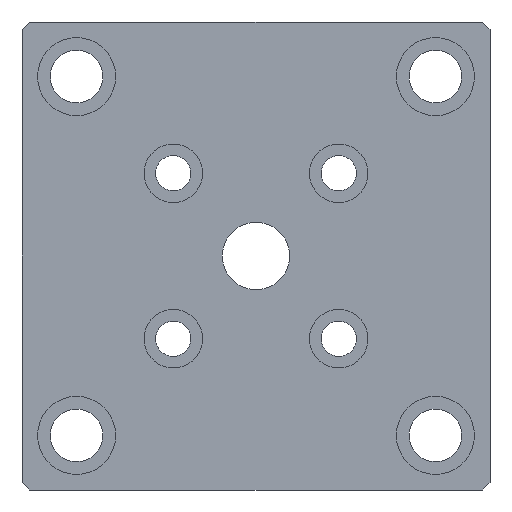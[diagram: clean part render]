
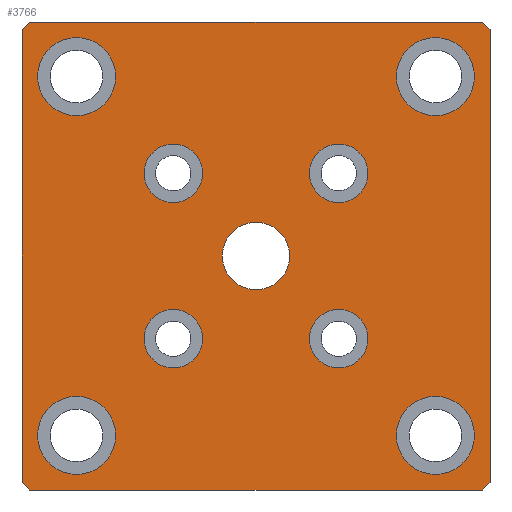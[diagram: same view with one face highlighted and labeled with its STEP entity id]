
A CAD part, front view. The second image highlights one B-rep face of the part: STEP entity #3766.
In plain terms, the highlighted planar face has unit normal (0, -1, 0).
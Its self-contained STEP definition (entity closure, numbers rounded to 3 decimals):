
#45=CIRCLE('',#3880,10.);
#46=CIRCLE('',#3881,10.);
#50=CIRCLE('',#3888,10.);
#51=CIRCLE('',#3889,10.);
#55=CIRCLE('',#3896,10.);
#56=CIRCLE('',#3897,10.);
#60=CIRCLE('',#3904,10.);
#61=CIRCLE('',#3905,10.);
#65=CIRCLE('',#3912,7.5);
#66=CIRCLE('',#3913,7.5);
#70=CIRCLE('',#3920,7.5);
#71=CIRCLE('',#3921,7.5);
#75=CIRCLE('',#3928,7.5);
#76=CIRCLE('',#3929,7.5);
#80=CIRCLE('',#3936,7.5);
#81=CIRCLE('',#3937,7.5);
#82=CIRCLE('',#3942,8.647);
#116=FACE_BOUND('',#850,.T.);
#117=FACE_BOUND('',#851,.T.);
#118=FACE_BOUND('',#852,.T.);
#119=FACE_BOUND('',#853,.T.);
#120=FACE_BOUND('',#854,.T.);
#121=FACE_BOUND('',#855,.T.);
#122=FACE_BOUND('',#856,.T.);
#123=FACE_BOUND('',#857,.T.);
#124=FACE_BOUND('',#858,.T.);
#613=FACE_OUTER_BOUND('',#849,.T.);
#849=EDGE_LOOP('',(#3423,#3424,#3425,#3426,#3427,#3428,#3429,#3430));
#850=EDGE_LOOP('',(#3431,#3432));
#851=EDGE_LOOP('',(#3433,#3434));
#852=EDGE_LOOP('',(#3435,#3436));
#853=EDGE_LOOP('',(#3437,#3438));
#854=EDGE_LOOP('',(#3439,#3440));
#855=EDGE_LOOP('',(#3441,#3442));
#856=EDGE_LOOP('',(#3443,#3444));
#857=EDGE_LOOP('',(#3445,#3446));
#858=EDGE_LOOP('',(#3447));
#1152=LINE('',#6929,#1453);
#1154=LINE('',#6933,#1455);
#1156=LINE('',#6937,#1457);
#1157=LINE('',#6939,#1458);
#1158=LINE('',#6941,#1459);
#1159=LINE('',#6943,#1460);
#1160=LINE('',#6945,#1461);
#1161=LINE('',#6946,#1462);
#1453=VECTOR('',#4528,10.);
#1455=VECTOR('',#4532,10.);
#1457=VECTOR('',#4536,10.);
#1458=VECTOR('',#4537,10.);
#1459=VECTOR('',#4538,10.);
#1460=VECTOR('',#4539,10.);
#1461=VECTOR('',#4540,10.);
#1462=VECTOR('',#4541,10.);
#1794=VERTEX_POINT('',#6813);
#1795=VERTEX_POINT('',#6814);
#1799=VERTEX_POINT('',#6828);
#1800=VERTEX_POINT('',#6829);
#1804=VERTEX_POINT('',#6843);
#1805=VERTEX_POINT('',#6844);
#1809=VERTEX_POINT('',#6858);
#1810=VERTEX_POINT('',#6859);
#1814=VERTEX_POINT('',#6873);
#1815=VERTEX_POINT('',#6874);
#1819=VERTEX_POINT('',#6888);
#1820=VERTEX_POINT('',#6889);
#1824=VERTEX_POINT('',#6903);
#1825=VERTEX_POINT('',#6904);
#1829=VERTEX_POINT('',#6918);
#1830=VERTEX_POINT('',#6919);
#1831=VERTEX_POINT('',#6926);
#1832=VERTEX_POINT('',#6928);
#1833=VERTEX_POINT('',#6932);
#1834=VERTEX_POINT('',#6936);
#1835=VERTEX_POINT('',#6938);
#1836=VERTEX_POINT('',#6940);
#1837=VERTEX_POINT('',#6942);
#1838=VERTEX_POINT('',#6944);
#1839=VERTEX_POINT('',#6947);
#2317=EDGE_CURVE('',#1794,#1795,#45,.T.);
#2318=EDGE_CURVE('',#1795,#1794,#46,.T.);
#2324=EDGE_CURVE('',#1799,#1800,#50,.T.);
#2325=EDGE_CURVE('',#1800,#1799,#51,.T.);
#2331=EDGE_CURVE('',#1804,#1805,#55,.T.);
#2332=EDGE_CURVE('',#1805,#1804,#56,.T.);
#2338=EDGE_CURVE('',#1809,#1810,#60,.T.);
#2339=EDGE_CURVE('',#1810,#1809,#61,.T.);
#2345=EDGE_CURVE('',#1814,#1815,#65,.T.);
#2346=EDGE_CURVE('',#1815,#1814,#66,.T.);
#2352=EDGE_CURVE('',#1819,#1820,#70,.T.);
#2353=EDGE_CURVE('',#1820,#1819,#71,.T.);
#2359=EDGE_CURVE('',#1824,#1825,#75,.T.);
#2360=EDGE_CURVE('',#1825,#1824,#76,.T.);
#2366=EDGE_CURVE('',#1829,#1830,#80,.T.);
#2367=EDGE_CURVE('',#1830,#1829,#81,.T.);
#2371=EDGE_CURVE('',#1831,#1832,#1152,.T.);
#2373=EDGE_CURVE('',#1833,#1832,#1154,.T.);
#2375=EDGE_CURVE('',#1831,#1834,#1156,.T.);
#2376=EDGE_CURVE('',#1835,#1834,#1157,.T.);
#2377=EDGE_CURVE('',#1835,#1836,#1158,.T.);
#2378=EDGE_CURVE('',#1837,#1836,#1159,.T.);
#2379=EDGE_CURVE('',#1837,#1838,#1160,.T.);
#2380=EDGE_CURVE('',#1833,#1838,#1161,.T.);
#2381=EDGE_CURVE('',#1839,#1839,#82,.T.);
#3423=ORIENTED_EDGE('',*,*,#2371,.F.);
#3424=ORIENTED_EDGE('',*,*,#2375,.T.);
#3425=ORIENTED_EDGE('',*,*,#2376,.F.);
#3426=ORIENTED_EDGE('',*,*,#2377,.T.);
#3427=ORIENTED_EDGE('',*,*,#2378,.F.);
#3428=ORIENTED_EDGE('',*,*,#2379,.T.);
#3429=ORIENTED_EDGE('',*,*,#2380,.F.);
#3430=ORIENTED_EDGE('',*,*,#2373,.T.);
#3431=ORIENTED_EDGE('',*,*,#2317,.T.);
#3432=ORIENTED_EDGE('',*,*,#2318,.T.);
#3433=ORIENTED_EDGE('',*,*,#2324,.T.);
#3434=ORIENTED_EDGE('',*,*,#2325,.T.);
#3435=ORIENTED_EDGE('',*,*,#2331,.T.);
#3436=ORIENTED_EDGE('',*,*,#2332,.T.);
#3437=ORIENTED_EDGE('',*,*,#2338,.T.);
#3438=ORIENTED_EDGE('',*,*,#2339,.T.);
#3439=ORIENTED_EDGE('',*,*,#2345,.T.);
#3440=ORIENTED_EDGE('',*,*,#2346,.T.);
#3441=ORIENTED_EDGE('',*,*,#2352,.T.);
#3442=ORIENTED_EDGE('',*,*,#2353,.T.);
#3443=ORIENTED_EDGE('',*,*,#2359,.T.);
#3444=ORIENTED_EDGE('',*,*,#2360,.T.);
#3445=ORIENTED_EDGE('',*,*,#2366,.T.);
#3446=ORIENTED_EDGE('',*,*,#2367,.T.);
#3447=ORIENTED_EDGE('',*,*,#2381,.T.);
#3564=PLANE('',#3941);
#3766=ADVANCED_FACE('',(#613,#116,#117,#118,#119,#120,#121,#122,#123,#124),
#3564,.F.);
#3880=AXIS2_PLACEMENT_3D('',#6815,#4391,#4392);
#3881=AXIS2_PLACEMENT_3D('',#6816,#4393,#4394);
#3888=AXIS2_PLACEMENT_3D('',#6830,#4409,#4410);
#3889=AXIS2_PLACEMENT_3D('',#6831,#4411,#4412);
#3896=AXIS2_PLACEMENT_3D('',#6845,#4427,#4428);
#3897=AXIS2_PLACEMENT_3D('',#6846,#4429,#4430);
#3904=AXIS2_PLACEMENT_3D('',#6860,#4445,#4446);
#3905=AXIS2_PLACEMENT_3D('',#6861,#4447,#4448);
#3912=AXIS2_PLACEMENT_3D('',#6875,#4463,#4464);
#3913=AXIS2_PLACEMENT_3D('',#6876,#4465,#4466);
#3920=AXIS2_PLACEMENT_3D('',#6890,#4481,#4482);
#3921=AXIS2_PLACEMENT_3D('',#6891,#4483,#4484);
#3928=AXIS2_PLACEMENT_3D('',#6905,#4499,#4500);
#3929=AXIS2_PLACEMENT_3D('',#6906,#4501,#4502);
#3936=AXIS2_PLACEMENT_3D('',#6920,#4517,#4518);
#3937=AXIS2_PLACEMENT_3D('',#6921,#4519,#4520);
#3941=AXIS2_PLACEMENT_3D('',#6935,#4534,#4535);
#3942=AXIS2_PLACEMENT_3D('',#6948,#4542,#4543);
#4391=DIRECTION('center_axis',(0.,1.,0.));
#4392=DIRECTION('ref_axis',(0.,0.,-1.));
#4393=DIRECTION('center_axis',(0.,1.,0.));
#4394=DIRECTION('ref_axis',(0.,0.,-1.));
#4409=DIRECTION('center_axis',(0.,1.,0.));
#4410=DIRECTION('ref_axis',(1.,0.,0.));
#4411=DIRECTION('center_axis',(0.,1.,0.));
#4412=DIRECTION('ref_axis',(1.,0.,0.));
#4427=DIRECTION('center_axis',(0.,1.,0.));
#4428=DIRECTION('ref_axis',(0.,0.,1.));
#4429=DIRECTION('center_axis',(0.,1.,0.));
#4430=DIRECTION('ref_axis',(0.,0.,1.));
#4445=DIRECTION('center_axis',(0.,1.,0.));
#4446=DIRECTION('ref_axis',(-1.,0.,0.));
#4447=DIRECTION('center_axis',(0.,1.,0.));
#4448=DIRECTION('ref_axis',(-1.,0.,0.));
#4463=DIRECTION('center_axis',(0.,1.,0.));
#4464=DIRECTION('ref_axis',(0.,0.,-1.));
#4465=DIRECTION('center_axis',(0.,1.,0.));
#4466=DIRECTION('ref_axis',(0.,0.,-1.));
#4481=DIRECTION('center_axis',(0.,1.,0.));
#4482=DIRECTION('ref_axis',(1.,0.,0.));
#4483=DIRECTION('center_axis',(0.,1.,0.));
#4484=DIRECTION('ref_axis',(1.,0.,0.));
#4499=DIRECTION('center_axis',(0.,1.,0.));
#4500=DIRECTION('ref_axis',(0.,0.,1.));
#4501=DIRECTION('center_axis',(0.,1.,0.));
#4502=DIRECTION('ref_axis',(0.,0.,1.));
#4517=DIRECTION('center_axis',(0.,1.,0.));
#4518=DIRECTION('ref_axis',(-1.,0.,0.));
#4519=DIRECTION('center_axis',(0.,1.,0.));
#4520=DIRECTION('ref_axis',(-1.,0.,0.));
#4528=DIRECTION('',(-0.707,0.,-0.707));
#4532=DIRECTION('',(1.,0.,0.));
#4534=DIRECTION('center_axis',(0.,1.,0.));
#4535=DIRECTION('ref_axis',(0.,0.,1.));
#4536=DIRECTION('',(0.,0.,1.));
#4537=DIRECTION('',(0.707,0.,-0.707));
#4538=DIRECTION('',(-1.,0.,0.));
#4539=DIRECTION('',(0.707,0.,0.707));
#4540=DIRECTION('',(0.,0.,-1.));
#4541=DIRECTION('',(-0.707,0.,0.707));
#4542=DIRECTION('center_axis',(0.,1.,0.));
#4543=DIRECTION('ref_axis',(1.,0.,0.));
#6813=CARTESIAN_POINT('',(-14.,0.,-24.));
#6814=CARTESIAN_POINT('',(-14.,0.,-4.));
#6815=CARTESIAN_POINT('Origin',(-14.,0.,-14.));
#6816=CARTESIAN_POINT('Origin',(-14.,0.,-14.));
#6828=CARTESIAN_POINT('',(-96.,0.,-14.));
#6829=CARTESIAN_POINT('',(-116.,0.,-14.));
#6830=CARTESIAN_POINT('Origin',(-106.,0.,-14.));
#6831=CARTESIAN_POINT('Origin',(-106.,0.,-14.));
#6843=CARTESIAN_POINT('',(-106.,0.,-96.));
#6844=CARTESIAN_POINT('',(-106.,0.,-116.));
#6845=CARTESIAN_POINT('Origin',(-106.,0.,-106.));
#6846=CARTESIAN_POINT('Origin',(-106.,0.,-106.));
#6858=CARTESIAN_POINT('',(-24.,0.,-106.));
#6859=CARTESIAN_POINT('',(-4.,0.,-106.));
#6860=CARTESIAN_POINT('Origin',(-14.,0.,-106.));
#6861=CARTESIAN_POINT('Origin',(-14.,0.,-106.));
#6873=CARTESIAN_POINT('',(-38.787,0.,-46.287));
#6874=CARTESIAN_POINT('',(-38.787,0.,-31.287));
#6875=CARTESIAN_POINT('Origin',(-38.787,0.,-38.787));
#6876=CARTESIAN_POINT('Origin',(-38.787,0.,-38.787));
#6888=CARTESIAN_POINT('',(-73.713,0.,-38.787));
#6889=CARTESIAN_POINT('',(-88.713,0.,-38.787));
#6890=CARTESIAN_POINT('Origin',(-81.213,0.,-38.787));
#6891=CARTESIAN_POINT('Origin',(-81.213,0.,-38.787));
#6903=CARTESIAN_POINT('',(-81.213,0.,-73.713));
#6904=CARTESIAN_POINT('',(-81.213,0.,-88.713));
#6905=CARTESIAN_POINT('Origin',(-81.213,0.,-81.213));
#6906=CARTESIAN_POINT('Origin',(-81.213,0.,-81.213));
#6918=CARTESIAN_POINT('',(-46.287,0.,-81.213));
#6919=CARTESIAN_POINT('',(-31.287,0.,-81.213));
#6920=CARTESIAN_POINT('Origin',(-38.787,0.,-81.213));
#6921=CARTESIAN_POINT('Origin',(-38.787,0.,-81.213));
#6926=CARTESIAN_POINT('',(0.,0.,-118.));
#6928=CARTESIAN_POINT('',(-2.,0.,-120.));
#6929=CARTESIAN_POINT('',(-1.,0.,-119.));
#6932=CARTESIAN_POINT('',(-118.,0.,-120.));
#6933=CARTESIAN_POINT('',(-120.,0.,-120.));
#6935=CARTESIAN_POINT('Origin',(-60.,0.,-60.));
#6936=CARTESIAN_POINT('',(0.,0.,-2.));
#6937=CARTESIAN_POINT('',(0.,0.,-120.));
#6938=CARTESIAN_POINT('',(-2.,0.,0.));
#6939=CARTESIAN_POINT('',(-1.,0.,-1.));
#6940=CARTESIAN_POINT('',(-118.,0.,0.));
#6941=CARTESIAN_POINT('',(0.,0.,0.));
#6942=CARTESIAN_POINT('',(-120.,0.,-2.));
#6943=CARTESIAN_POINT('',(-119.,0.,-1.));
#6944=CARTESIAN_POINT('',(-120.,0.,-118.));
#6945=CARTESIAN_POINT('',(-120.,0.,0.));
#6946=CARTESIAN_POINT('',(-119.,0.,-119.));
#6947=CARTESIAN_POINT('',(-68.647,0.,-60.));
#6948=CARTESIAN_POINT('Origin',(-60.,0.,-60.));
